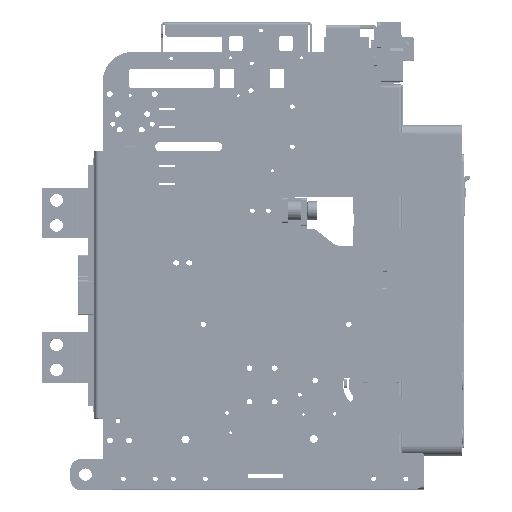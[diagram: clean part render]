
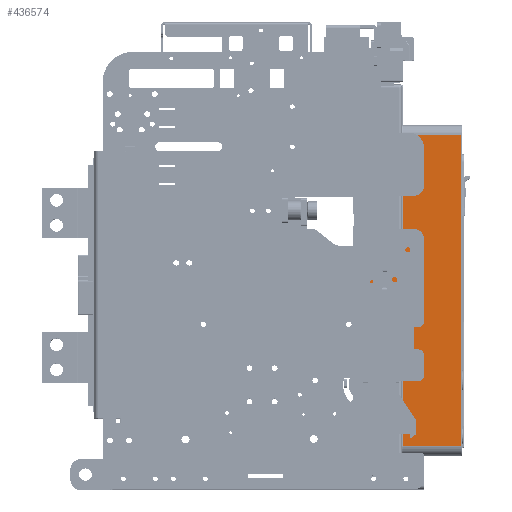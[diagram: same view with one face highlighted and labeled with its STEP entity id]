
A CAD part, top view. The second image highlights one B-rep face of the part: STEP entity #436574.
In plain terms, the highlighted planar face has unit normal (0, 0, 1) as drawn and (-1, 0, 0) by its records, which use the part's own axes.
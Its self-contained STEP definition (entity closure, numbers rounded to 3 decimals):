
#418307=DIRECTION('',(0.,-1.,0.));
#418308=VECTOR('',#418307,310.);
#418309=CARTESIAN_POINT('',(-135.,141.35,108.));
#418310=LINE('',#418309,#418308);
#418311=DIRECTION('',(0.,0.,-1.));
#418312=VECTOR('',#418311,58.);
#418313=CARTESIAN_POINT('',(-135.,-168.65,108.));
#418314=LINE('',#418313,#418312);
#418315=DIRECTION('',(0.,-1.,0.));
#418316=VECTOR('',#418315,156.523);
#418317=CARTESIAN_POINT('',(-135.,-12.127,
50.));
#418318=LINE('',#418317,#418316);
#418319=CARTESIAN_POINT('',(-135.,-6.65,47.));
#418320=CARTESIAN_POINT('',(-134.999,-7.114,
47.43));
#418321=CARTESIAN_POINT('',(-135.,-8.003,
48.247));
#418322=CARTESIAN_POINT('',(-135.,-9.345,
49.224));
#418323=CARTESIAN_POINT('',(-135.,-10.766,
49.861));
#418324=CARTESIAN_POINT('',(-135.,-11.675,
50.));
#418325=CARTESIAN_POINT('',(-135.,-12.127,
50.));
#418327=DIRECTION('',(0.,0.,1.));
#418328=VECTOR('',#418327,34.);
#418329=CARTESIAN_POINT('',(-135.,-6.65,13.));
#418330=LINE('',#418329,#418328);
#418331=DIRECTION('',(0.,0.,1.));
#418332=VECTOR('',#418331,34.);
#418333=CARTESIAN_POINT('',(-135.,-0.25,13.));
#418334=LINE('',#418333,#418332);
#418335=CARTESIAN_POINT('',(-135.,5.227,
50.));
#418336=CARTESIAN_POINT('',(-135.,4.776,
50.));
#418337=CARTESIAN_POINT('',(-135.,3.87,
49.861));
#418338=CARTESIAN_POINT('',(-135.,2.454,
49.229));
#418339=CARTESIAN_POINT('',(-135.001,1.111,
48.254));
#418340=CARTESIAN_POINT('',(-134.999,0.217,
47.433));
#418341=CARTESIAN_POINT('',(-135.,-0.25,47.));
#418343=DIRECTION('',(0.,-1.,0.));
#418344=VECTOR('',#418343,136.123);
#418345=CARTESIAN_POINT('',(-135.,141.35,50.));
#418346=LINE('',#418345,#418344);
#418347=DIRECTION('',(0.,0.,-1.));
#418348=VECTOR('',#418347,58.);
#418349=CARTESIAN_POINT('',(-135.,141.35,108.));
#418350=LINE('',#418349,#418348);
#418611=DIRECTION('',(0.,-1.,0.));
#418612=VECTOR('',#418611,6.4);
#418613=CARTESIAN_POINT('',(-135.,-0.25,13.));
#418614=LINE('',#418613,#418612);
#426704=CARTESIAN_POINT('',(-135.,-0.25,13.));
#426706=VERTEX_POINT('',#426704);
#426709=CARTESIAN_POINT('',(-135.,-6.65,13.));
#426711=VERTEX_POINT('',#426709);
#428029=VERTEX_POINT('',#418335);
#428030=VERTEX_POINT('',#418341);
#428034=CARTESIAN_POINT('',(-135.,141.35,50.));
#428035=VERTEX_POINT('',#428034);
#428070=CARTESIAN_POINT('',(-135.,-168.65,50.));
#428071=VERTEX_POINT('',#428070);
#428074=CARTESIAN_POINT('',(-135.,-12.127,
50.));
#428075=VERTEX_POINT('',#428074);
#428076=VERTEX_POINT('',#418319);
#428082=CARTESIAN_POINT('',(-135.,141.35,108.));
#428084=VERTEX_POINT('',#428082);
#428087=CARTESIAN_POINT('',(-135.,-168.65,108.));
#428088=VERTEX_POINT('',#428087);
#436549=CARTESIAN_POINT('',(-135.,151.35,49.));
#436550=DIRECTION('',(-1.,0.,0.));
#436551=DIRECTION('',(0.,-1.,0.));
#436552=AXIS2_PLACEMENT_3D('',#436549,#436550,#436551);
#436553=PLANE('',#436552);
#436554=ORIENTED_EDGE('',*,*,#436431,.T.);
#436556=ORIENTED_EDGE('',*,*,#436555,.T.);
#436558=ORIENTED_EDGE('',*,*,#436557,.F.);
#436560=ORIENTED_EDGE('',*,*,#436559,.F.);
#436562=ORIENTED_EDGE('',*,*,#436561,.F.);
#436564=ORIENTED_EDGE('',*,*,#436563,.F.);
#436566=ORIENTED_EDGE('',*,*,#436565,.T.);
#436568=ORIENTED_EDGE('',*,*,#436567,.F.);
#436570=ORIENTED_EDGE('',*,*,#436569,.F.);
#436571=ORIENTED_EDGE('',*,*,#436541,.F.);
#436572=EDGE_LOOP('',(#436554,#436556,#436558,#436560,#436562,#436564,#436566,
#436568,#436570,#436571));
#436573=FACE_OUTER_BOUND('',#436572,.F.);
#436574=ADVANCED_FACE('',(#436573),#436553,.T.);
#418326=B_SPLINE_CURVE_WITH_KNOTS('',3,(#418319,#418320,#418321,#418322,#418323,
#418324,#418325),.UNSPECIFIED.,.F.,.F.,(4,1,1,1,4),(0.,0.25,0.5,0.75,
1.),.UNSPECIFIED.);
#418342=B_SPLINE_CURVE_WITH_KNOTS('',3,(#418335,#418336,#418337,#418338,#418339,
#418340,#418341),.UNSPECIFIED.,.F.,.F.,(4,1,1,1,4),(0.,0.25,0.5,0.75,
1.),.UNSPECIFIED.);
#436431=EDGE_CURVE('',#428084,#428088,#418310,.T.);
#436541=EDGE_CURVE('',#428084,#428035,#418350,.T.);
#436555=EDGE_CURVE('',#428088,#428071,#418314,.T.);
#436557=EDGE_CURVE('',#428075,#428071,#418318,.T.);
#436559=EDGE_CURVE('',#428076,#428075,#418326,.T.);
#436561=EDGE_CURVE('',#426711,#428076,#418330,.T.);
#436563=EDGE_CURVE('',#426706,#426711,#418614,.T.);
#436565=EDGE_CURVE('',#426706,#428030,#418334,.T.);
#436567=EDGE_CURVE('',#428029,#428030,#418342,.T.);
#436569=EDGE_CURVE('',#428035,#428029,#418346,.T.);
